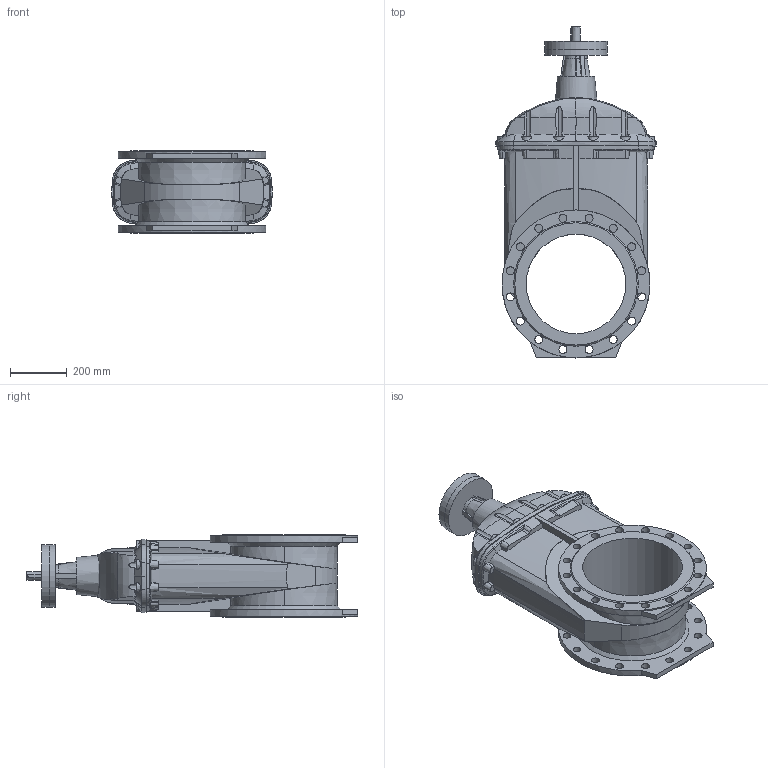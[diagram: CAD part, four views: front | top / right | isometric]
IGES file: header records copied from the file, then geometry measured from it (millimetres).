
Start section: SolidWorks IGES file using analytic representation for surfaces
Global section: file name: \\avksan2\techshare\PBM outline export from Enovia\O_15_40_DN350_X1X_AA0.igs; native system: SolidWorks 2012; preprocessor: SolidWorks 2012; author: pbm; date: 170310.090327; units: millimetre
Bounding box: 564 x 1167 x 290 mm (x, y, z)
Surface area: 2069418.8 mm2 (no closed solid volume)
Topology: 0 solids, 0 shells, 371 faces, 2116 edges, 2028 vertices
Faces by surface type: revolution 225, bspline 146
